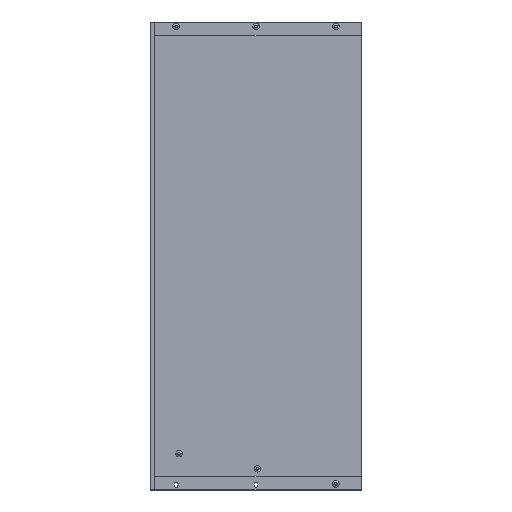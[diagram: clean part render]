
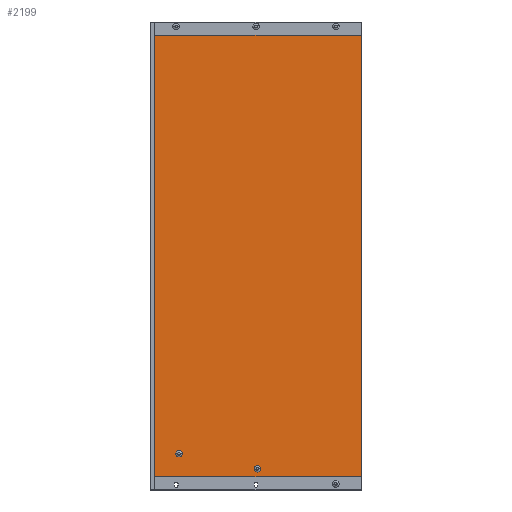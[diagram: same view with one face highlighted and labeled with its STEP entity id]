
A CAD part, front view. The second image highlights one B-rep face of the part: STEP entity #2199.
In plain terms, the highlighted planar face has unit normal (0, -1, 0).
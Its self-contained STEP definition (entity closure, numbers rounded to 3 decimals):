
#51 = CARTESIAN_POINT ( 'NONE',  ( -6.6, 61.1, 854. ) ) ;
#149 = VECTOR ( 'NONE', #4482, 1000. ) ;
#311 = PLANE ( 'NONE',  #615 ) ;
#383 = ORIENTED_EDGE ( 'NONE', *, *, #4471, .F. ) ;
#610 = CARTESIAN_POINT ( 'NONE',  ( 388.6, 61.1, 879. ) ) ;
#615 = AXIS2_PLACEMENT_3D ( 'NONE', #655, #3400, #3380 ) ;
#655 = CARTESIAN_POINT ( 'NONE',  ( -8., 61.1, 879. ) ) ;
#780 = DIRECTION ( 'NONE',  ( -1., 0., 0. ) ) ;
#1019 = DIRECTION ( 'NONE',  ( 0., 0., 1. ) ) ;
#1075 = CARTESIAN_POINT ( 'NONE',  ( 388.6, 61.1, 854. ) ) ;
#1518 = VECTOR ( 'NONE', #780, 1000. ) ;
#1577 = VERTEX_POINT ( 'NONE', #1075 ) ;
#1604 = VERTEX_POINT ( 'NONE', #3506 ) ;
#1719 = CARTESIAN_POINT ( 'NONE',  ( -8., 61.1, 25. ) ) ;
#1744 = ORIENTED_EDGE ( 'NONE', *, *, #2139, .T. ) ;
#1882 = ORIENTED_EDGE ( 'NONE', *, *, #4053, .T. ) ;
#2123 = EDGE_LOOP ( 'NONE', ( #2630, #1882, #383, #1744 ) ) ;
#2139 = EDGE_CURVE ( 'NONE', #1604, #1577, #4401, .T. ) ;
#2199 = ADVANCED_FACE ( 'NONE', ( #3360 ), #311, .F. ) ;
#2244 = CARTESIAN_POINT ( 'NONE',  ( 0., 61.1, 854. ) ) ;
#2310 = LINE ( 'NONE', #2971, #3328 ) ;
#2499 = EDGE_CURVE ( 'NONE', #1577, #3007, #2910, .T. ) ;
#2630 = ORIENTED_EDGE ( 'NONE', *, *, #2499, .T. ) ;
#2881 = CARTESIAN_POINT ( 'NONE',  ( -6.6, 61.1, 25. ) ) ;
#2910 = LINE ( 'NONE', #2244, #1518 ) ;
#2971 = CARTESIAN_POINT ( 'NONE',  ( -6.6, 61.1, 879. ) ) ;
#3007 = VERTEX_POINT ( 'NONE', #51 ) ;
#3144 = LINE ( 'NONE', #1719, #149 ) ;
#3226 = VECTOR ( 'NONE', #1019, 1000. ) ;
#3328 = VECTOR ( 'NONE', #4392, 1000. ) ;
#3360 = FACE_OUTER_BOUND ( 'NONE', #2123, .T. ) ;
#3380 = DIRECTION ( 'NONE',  ( 0., 0., 1. ) ) ;
#3400 = DIRECTION ( 'NONE',  ( 0., 1., 0. ) ) ;
#3506 = CARTESIAN_POINT ( 'NONE',  ( 388.6, 61.1, 25. ) ) ;
#3926 = VERTEX_POINT ( 'NONE', #2881 ) ;
#4053 = EDGE_CURVE ( 'NONE', #3007, #3926, #2310, .T. ) ;
#4392 = DIRECTION ( 'NONE',  ( 0., 0., -1. ) ) ;
#4401 = LINE ( 'NONE', #610, #3226 ) ;
#4471 = EDGE_CURVE ( 'NONE', #1604, #3926, #3144, .T. ) ;
#4482 = DIRECTION ( 'NONE',  ( -1., 0., 0. ) ) ;
